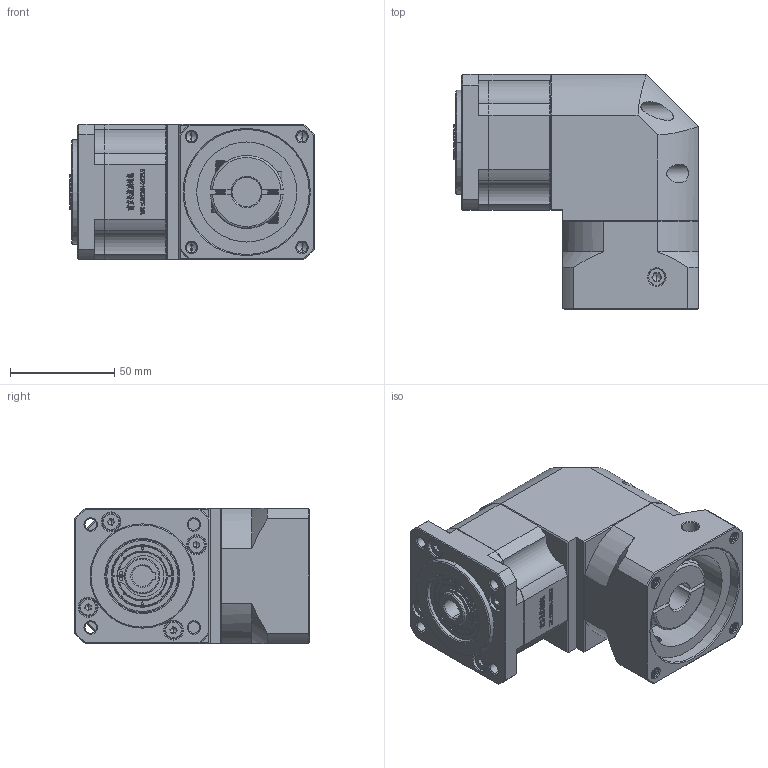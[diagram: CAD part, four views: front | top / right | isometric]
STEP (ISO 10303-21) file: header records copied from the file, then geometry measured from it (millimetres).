
FILE_DESCRIPTION (( 'STEP AP214' ), '1' );
FILE_NAME ('ZBR60-K10-L1-14-60-75-M6.STEP', '2022-04-19T09:03:12', ( '' ), ( 'Microsoft' ), 'SwSTEP 2.0', 'SolidWorks 2016', '' );
FILE_SCHEMA (( 'AUTOMOTIVE_DESIGN' ));
Length unit declared in the file: millimetre
Products named in the file (1): ZBR60-K10-L1-14-60-75-M6
Bounding box: 117.5 x 112.7 x 65 mm (x, y, z)
Volume: 532942.8 mm3; surface area: 78543.1 mm2
Topology: 5 solids, 5 shells, 2786 faces, 7555 edges, 4908 vertices
Faces by surface type: plane 1469, bspline 572, cylinder 389, cone 324, torus 32
Entity records: 148857 total; most frequent: CARTESIAN_POINT 51956, ORIENTED_EDGE 15054, DIRECTION 11581, EDGE_CURVE 7527, LINE 5015, VECTOR 5015, VERTEX_POINT 4908, AXIS2_PLACEMENT_3D 3283
